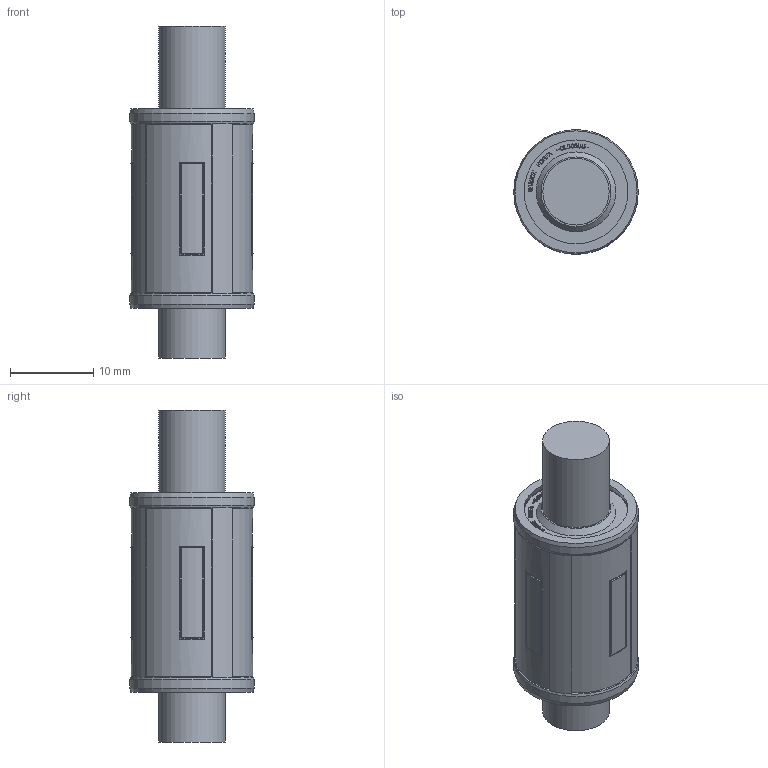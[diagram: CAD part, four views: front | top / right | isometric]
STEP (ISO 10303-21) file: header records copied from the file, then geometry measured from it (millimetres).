
FILE_DESCRIPTION(/* description */ (''),/* implementation_level */ '2;1');
FILE_NAME(/* name */ 'C:\Users\조경제\OneDrive - mysamick.com\바탕 화면\STP\STP_rev1\CLB08UU.stp',/* time_stamp */ '2025-02-05T13:50:40+09:00',/* author */ ('조경제'),/* organization */ (''),/* preprocessor_version */ 'ST-DEVELOPER v17',/* originating_system */ 'Autodesk Inventor 2019',/* authorisation */ '');
FILE_SCHEMA (('AUTOMOTIVE_DESIGN { 1 0 10303 214 3 1 1 }'));
Length unit declared in the file: millimetre
Products named in the file (1): CLB08UU
Bounding box: 15 x 15 x 40 mm (x, y, z)
Volume: 4778.3 mm3; surface area: 2285.5 mm2
Topology: 1 solids, 1 shells, 1094 faces, 2988 edges, 1974 vertices
Faces by surface type: bspline 700, plane 306, cylinder 54, sphere 16, torus 10, cone 8
Full cylindrical faces by diameter (mm): 8 x2, 12.6 x2, 12.9 x2, 13 x2, 15 x2
Entity records: 37699 total; most frequent: CARTESIAN_POINT 13567, ORIENTED_EDGE 5976, EDGE_CURVE 2988, DIRECTION 2542, VERTEX_POINT 1974, B_SPLINE_CURVE_WITH_KNOTS 1416, LINE 1392, VECTOR 1392
